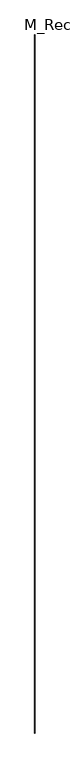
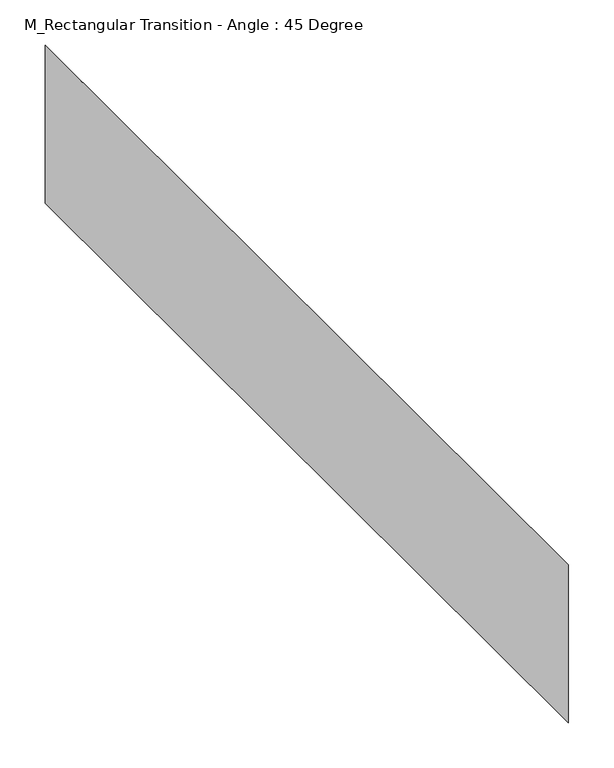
"""IFC4 building model written with IfcOpenShell, lengths in millimetres: duct fitting geometry, M_Rectangular Transition - Angle : 45 Degree."""

import ifcopenshell
import ifcopenshell.guid

model = None  # the IFC model being written
_history = None  # IfcOwnerHistory: only IFC2X3 demands one
_inside = {}  # id of a spatial element -> (the spatial element, [elements in it])
_under = {}  # id of a project, library or spatial element -> (it, [spatial elements below it])
_declared = {}  # id of a project -> (the project, [libraries it declares])
_typed = {}  # id of a type object -> (the type object, [elements of that type])
_made_of = {}  # id of a material, layer set ... -> (it, [elements and type objects made of it])


def new_model(schema):
    """Start an empty IFC model of exactly this schema.

    Asked for "IFC4X3", IfcOpenShell would pick the latest addendum, in which some entities
    have other attributes; the version numbers below select the first issue.
    IFC2X3 requires an IfcOwnerHistory on every rooted entity: one is made here for all.
    """
    global model, _history
    if schema == "IFC4X3":
        model = ifcopenshell.file(schema_version=(4, 3, 0, 0))
    else:
        model = ifcopenshell.file(schema=schema)
    _inside.clear()
    _under.clear()
    _declared.clear()
    _typed.clear()
    _made_of.clear()
    _history = None
    if model.schema == "IFC2X3":
        org = make("IfcOrganization", Name="unknown")
        user = make(
            "IfcPersonAndOrganization",
            ThePerson=make("IfcPerson", FamilyName="unknown"),
            TheOrganization=org,
        )
        app = make(
            "IfcApplication",
            ApplicationDeveloper=org,
            Version="unknown",
            ApplicationFullName="unknown",
            ApplicationIdentifier="unknown",
        )
        _history = make(
            "IfcOwnerHistory",
            OwningUser=user,
            OwningApplication=app,
            ChangeAction="ADDED",
            CreationDate=0,
        )
    return model


def make(cls, **values):
    """One entity of the class cls with the attributes given. An attribute that is None is left unset."""
    return model.create_entity(
        cls, **{name: value for name, value in values.items() if value is not None}
    )


def rooted(cls, **values):
    """An entity with a GlobalId (a new one), such as an element, a storey or a relation."""
    return make(cls, GlobalId=ifcopenshell.guid.new(), OwnerHistory=_history, **values)


def si_unit(unit_type, name, prefix=None):
    """IfcSIUnit, for example si_unit("LENGTHUNIT", "METRE", prefix="MILLI")."""
    return make("IfcSIUnit", UnitType=unit_type, Prefix=prefix, Name=name)


def assignment(units):
    """IfcUnitAssignment: the units of a project."""
    return None if units is None else make("IfcUnitAssignment", Units=units)


def point(xyz):
    """IfcCartesianPoint."""
    return None if xyz is None else make("IfcCartesianPoint", Coordinates=xyz)


def direction(xyz):
    """IfcDirection."""
    return None if xyz is None else make("IfcDirection", DirectionRatios=xyz)


def frame(location, z_axis=None, x_axis=None):
    """IfcAxis2Placement3D, a coordinate frame: its origin and axes. An axis left out is left unset."""
    return make(
        "IfcAxis2Placement3D",
        Location=point(location),
        Axis=direction(z_axis),
        RefDirection=direction(x_axis),
    )


def origin():
    """The frame at (0, 0, 0) with its axes left unset."""
    return frame((0.0, 0.0, 0.0))


def place(relative_to, where):
    """IfcLocalPlacement: puts the frame where relative to a parent placement (None: the world)."""
    return make(
        "IfcLocalPlacement", PlacementRelTo=relative_to, RelativePlacement=where
    )


def context(
    kind, dimensions, precision=None, world=None, true_north=None, identifier=None
):
    """IfcGeometricRepresentationContext, for example the 3D "Model" context."""
    return make(
        "IfcGeometricRepresentationContext",
        ContextIdentifier=identifier,
        ContextType=kind,
        CoordinateSpaceDimension=dimensions,
        Precision=precision,
        WorldCoordinateSystem=world,
        TrueNorth=true_north,
    )


def project(units=None, contexts=None):
    """IfcProject with its units and contexts."""
    return rooted(
        "IfcProject",
        Name="project",
        RepresentationContexts=contexts,
        UnitsInContext=assignment(units),
    )


def spatial(cls, under=None, at=None, **own):
    """A site, building, storey or space (cls), placed at a placement, below another one or the project."""
    s = rooted(cls, ObjectPlacement=at, **own)
    if under is not None:
        _under.setdefault(under.id(), (under, []))[1].append(s)
    return s


def faces_of(points, faces, orient=None, outer=None):
    """IfcFace entities. A face is a list of loops; a loop is a list of indices into points, from 0.

    orient and outer hold one flag for each loop. By default every Orientation is true, the
    first loop of a face is its IfcFaceOuterBound and the others are IfcFaceBound.
    """
    made = []
    for i, loops in enumerate(faces):
        bounds = []
        for j, loop in enumerate(loops):
            is_outer = j == 0 if outer is None else outer[i][j]
            bounds.append(
                make(
                    "IfcFaceOuterBound" if is_outer else "IfcFaceBound",
                    Bound=make("IfcPolyLoop", Polygon=[points[k] for k in loop]),
                    Orientation=True if orient is None else orient[i][j],
                )
            )
        made.append(make("IfcFace", Bounds=bounds))
    return made


def faceted_brep(points, faces, orient=None, outer=None, voids=None):
    """IfcFacetedBrep: a solid bounded by flat faces; with voids (closed shells), ...WithVoids."""
    shared = [point(p) for p in points]
    hull = make("IfcClosedShell", CfsFaces=faces_of(shared, faces, orient, outer))
    if voids is None:
        return make("IfcFacetedBrep", Outer=hull)
    return make(
        "IfcFacetedBrepWithVoids",
        Outer=hull,
        Voids=[
            make(cls, CfsFaces=faces_of(shared, fs, o, b)) for cls, fs, o, b in voids
        ],
    )


def shape(context_of_items, identifier, shape_type, items):
    """IfcShapeRepresentation: the items that make up one representation, for example the "Body"."""
    return make(
        "IfcShapeRepresentation",
        ContextOfItems=context_of_items,
        RepresentationIdentifier=identifier,
        RepresentationType=shape_type,
        Items=items,
    )


def source(mapping_origin, context_of_items, identifier, shape_type, items):
    """IfcRepresentationMap: a shape defined once, which mapped items show again and again."""
    return make(
        "IfcRepresentationMap",
        MappingOrigin=mapping_origin,
        MappedRepresentation=shape(context_of_items, identifier, shape_type, items),
    )


def transform(
    local_origin,
    x_axis=None,
    y_axis=None,
    z_axis=None,
    scale=None,
    scale2=None,
    scale3=None,
    uniform=True,
):
    """IfcCartesianTransformationOperator3D, or its non-uniform kind. x_axis, y_axis, z_axis: its Axis1, 2, 3."""
    if uniform:
        return make(
            "IfcCartesianTransformationOperator3D",
            Axis1=direction(x_axis),
            Axis2=direction(y_axis),
            LocalOrigin=point(local_origin),
            Scale=scale,
            Axis3=direction(z_axis),
        )
    return make(
        "IfcCartesianTransformationOperator3DnonUniform",
        Axis1=direction(x_axis),
        Axis2=direction(y_axis),
        LocalOrigin=point(local_origin),
        Scale=scale,
        Axis3=direction(z_axis),
        Scale2=scale2,
        Scale3=scale3,
    )


def mapped(mapping_source, mapping_target):
    """IfcMappedItem: shows the shape of a source again, moved by a transform."""
    return make(
        "IfcMappedItem", MappingSource=mapping_source, MappingTarget=mapping_target
    )


def made_of(thing, what):
    """Note that an element or type object is made of a material, layer set ...; save() writes the relation."""
    if what is not None:
        _made_of.setdefault(what.id(), (what, []))[1].append(thing)
    return thing


def element(
    cls,
    number,
    at=None,
    inside=None,
    cuts=None,
    type_object=None,
    material=None,
    context=None,
    identifier="Body",
    shape_type=None,
    held_by="IfcProductDefinitionShape",
    body=None,
    shapes=None,
    **own,
):
    """One element of the class cls, such as IfcWall. Its Tag is "e" and its number.

    at: its placement. inside: the storey or other place that contains it. cuts: it is an
    opening in that element (IfcRelVoidsElement). A single representation is given by context,
    identifier, shape_type and body (its items); several are given by shapes. held_by: the class
    of the entity that holds the representations. save() writes the other relations.
    """
    e = rooted(cls, Tag="e%d" % number, ObjectPlacement=at, **own)
    if body is not None:
        shapes = [shape(context, identifier, shape_type, body)]
    if shapes is not None:
        e.Representation = make(held_by, Representations=shapes)
    if inside is not None:
        _inside.setdefault(inside.id(), (inside, []))[1].append(e)
    if cuts is not None:
        rooted(
            "IfcRelVoidsElement", RelatingBuildingElement=cuts, RelatedOpeningElement=e
        )
    if type_object is not None:
        _typed.setdefault(type_object.id(), (type_object, []))[1].append(e)
    return made_of(e, material)


def aggregate(whole, parts):
    """IfcRelAggregates: a whole, such as a stair, and the parts it consists of."""
    return rooted("IfcRelAggregates", RelatingObject=whole, RelatedObjects=parts)


def save(model, path):
    """Write the relations noted so far, then the file.

    IfcRelAggregates (storeys below a building ...), IfcRelContainedInSpatialStructure (elements
    in a storey), IfcRelDefinesByType, IfcRelAssociatesMaterial and IfcRelDeclares: one each for
    every whole, place, type object, material and project.
    """
    for whole, parts in _under.values():
        aggregate(whole, parts)
    for where, things in _inside.values():
        rooted(
            "IfcRelContainedInSpatialStructure",
            RelatedElements=things,
            RelatingStructure=where,
        )
    for kind, things in _typed.values():
        rooted("IfcRelDefinesByType", RelatedObjects=things, RelatingType=kind)
    for what, things in _made_of.values():
        rooted("IfcRelAssociatesMaterial", RelatedObjects=things, RelatingMaterial=what)
    for by, libraries in _declared.values():
        rooted("IfcRelDeclares", RelatingContext=by, RelatedDefinitions=libraries)
    model.write(path)


def m_rectangular_transition_angle_45_degree_2e6f116c(model_context):
    return source(origin(), model_context, "Body", "Brep", [
        faceted_brep([(0.3319544, -581.0, 107.0), (0.3319544, -581.0, -107.0), (0.3319544, 581.0, -107.0), (0.3319544, 581.0, 107.0), (0.0, -580.9375, 107.1375), (0.0, 580.9375, 107.1375), (0.0, 580.9375, -107.1375), (0.0, -580.9375, -107.1375)], [[[0, 1, 2, 3]], [[4, 5, 6, 7]], [[4, 7, 1, 0]], [[7, 6, 2, 1]], [[6, 5, 3, 2]], [[5, 4, 0, 3]]]),
    ])


if __name__ == "__main__":
    model = new_model("IFC4")
    model_context = context("Model", 3, world=origin())
    ifc_project = project(units=[si_unit("LENGTHUNIT", "METRE", prefix="MILLI")], contexts=[model_context])
    site = spatial("IfcSite", under=ifc_project)
    building = spatial("IfcBuilding", under=site)
    placement = place(None, origin())
    m_rectangular_transition_angle_45_degree_shape = m_rectangular_transition_angle_45_degree_2e6f116c(model_context)
    element("IfcDuctFitting", 1, ObjectType="M_Rectangular Transition - Angle : 45 Degree", at=placement, inside=building, context=model_context, shape_type="MappedRepresentation", body=[
        mapped(m_rectangular_transition_angle_45_degree_shape, transform((0.0, 0.0, 0.0), x_axis=(1.0, 0.0, 0.0), y_axis=(0.0, 1.0, 0.0), z_axis=(0.0, 0.0, 1.0))),
    ])
    save(model, "model.ifc")
